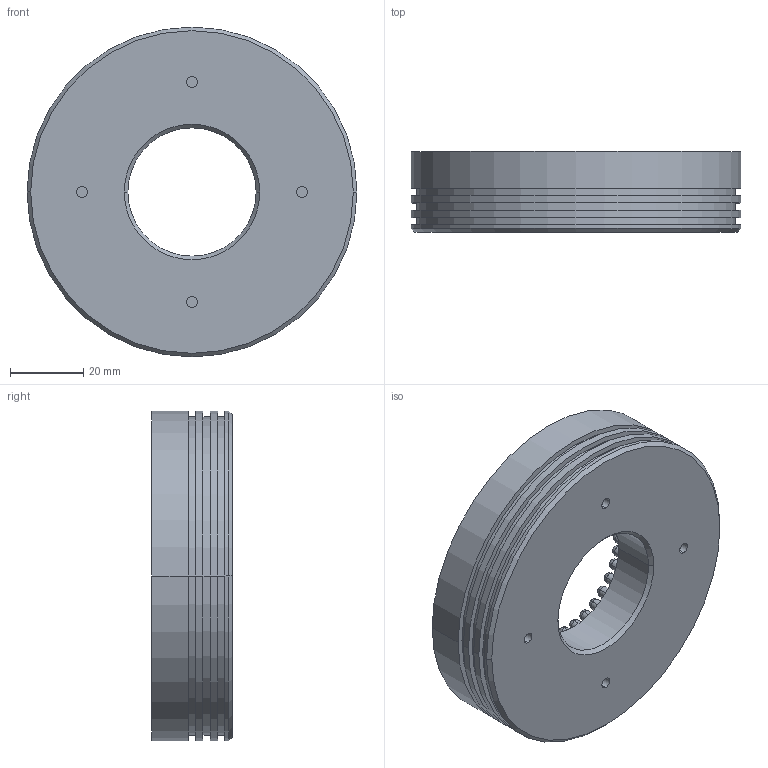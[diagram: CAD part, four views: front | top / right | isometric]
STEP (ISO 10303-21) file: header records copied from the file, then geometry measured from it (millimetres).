
FILE_DESCRIPTION((''),'2;1');
FILE_NAME('70-0W_ASM','2020-03-28T',('ASUS'),(''),'PRO/ENGINEER BY PARAMETRIC TECHNOLOGY CORPORATION, 2008380','PRO/ENGINEER BY PARAMETRIC TECHNOLOGY CORPORATION, 2008380','');
FILE_SCHEMA(('CONFIG_CONTROL_DESIGN'));
Length unit declared in the file: millimetre
Products named in the file (3): 70-0; 4_; 70-0W_ASM
Assembly tree (193 placements, depth 2):
  70-0W_ASM
    70-0
    4_  x192
Bounding box: 90 x 22 x 90 mm (x, y, z)
Volume: 66072.6 mm3; surface area: 45924.7 mm2
Topology: 193 solids, 194 shells, 1588 faces, 3176 edges, 1796 vertices
Faces by surface type: cylinder 800, plane 400, sphere 384, cone 4
Entity records: 3202 total; most frequent: DIRECTION 708, CARTESIAN_POINT 451, AXIS2_PLACEMENT_3D 334, ORIENTED_EDGE 236, PRODUCT_DEFINITION_SHAPE 196, ITEM_DEFINED_TRANSFORMATION 193, CONTEXT_DEPENDENT_SHAPE_REPRESENTATION 193, NEXT_ASSEMBLY_USAGE_OCCURRENCE 193
